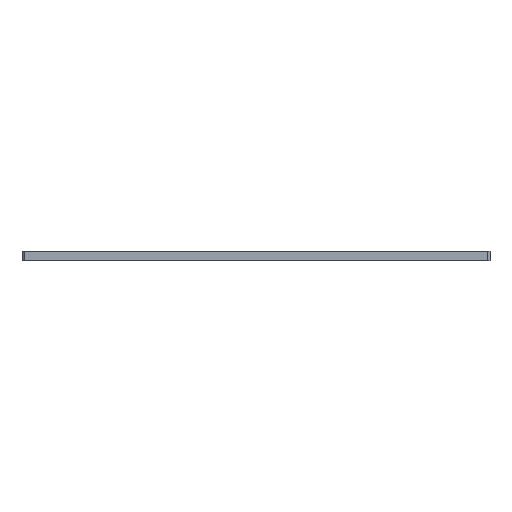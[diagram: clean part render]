
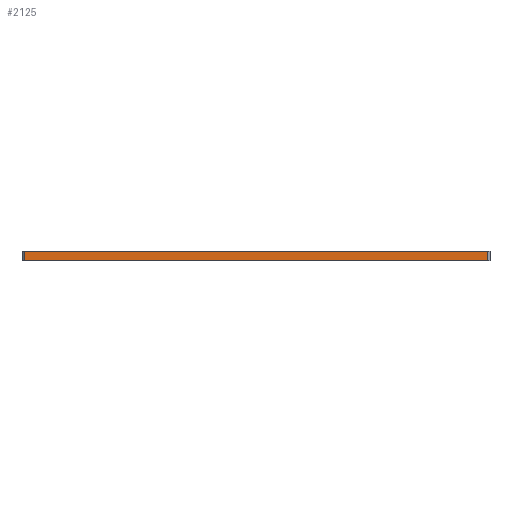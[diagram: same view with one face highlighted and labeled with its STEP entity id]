
A CAD part, front view. The second image highlights one B-rep face of the part: STEP entity #2125.
In plain terms, the highlighted planar face has unit normal (0, -1, 0).
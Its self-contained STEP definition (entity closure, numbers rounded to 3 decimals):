
#98 = EDGE_CURVE ( 'NONE', #320, #1692, #1061, .T. ) ;
#205 = VERTEX_POINT ( 'NONE', #1120 ) ;
#292 = CARTESIAN_POINT ( 'NONE',  ( 221.5, -230., 0. ) ) ;
#320 = VERTEX_POINT ( 'NONE', #373 ) ;
#373 = CARTESIAN_POINT ( 'NONE',  ( -219.5, -230., 9. ) ) ;
#408 = FACE_OUTER_BOUND ( 'NONE', #2128, .T. ) ;
#463 = ORIENTED_EDGE ( 'NONE', *, *, #98, .F. ) ;
#553 = EDGE_CURVE ( 'NONE', #320, #2106, #804, .T. ) ;
#631 = CARTESIAN_POINT ( 'NONE',  ( -219.5, -230., 9. ) ) ;
#639 = DIRECTION ( 'NONE',  ( 0., 0., -1. ) ) ;
#642 = EDGE_CURVE ( 'NONE', #205, #1692, #894, .T. ) ;
#660 = DIRECTION ( 'NONE',  ( 1., 0., 0. ) ) ;
#667 = CARTESIAN_POINT ( 'NONE',  ( 219.5, -230., 9. ) ) ;
#804 = LINE ( 'NONE', #631, #1426 ) ;
#894 = LINE ( 'NONE', #667, #1282 ) ;
#939 = PLANE ( 'NONE',  #1515 ) ;
#1061 = LINE ( 'NONE', #1404, #1674 ) ;
#1063 = VECTOR ( 'NONE', #660, 1000. ) ;
#1120 = CARTESIAN_POINT ( 'NONE',  ( 219.5, -230., 0. ) ) ;
#1151 = EDGE_CURVE ( 'NONE', #2106, #205, #2098, .T. ) ;
#1229 = ORIENTED_EDGE ( 'NONE', *, *, #642, .T. ) ;
#1245 = DIRECTION ( 'NONE',  ( 0., 0., 1. ) ) ;
#1282 = VECTOR ( 'NONE', #1722, 1000. ) ;
#1404 = CARTESIAN_POINT ( 'NONE',  ( 221.5, -230., 9. ) ) ;
#1412 = CARTESIAN_POINT ( 'NONE',  ( 221.5, -230., 9. ) ) ;
#1426 = VECTOR ( 'NONE', #639, 1000. ) ;
#1469 = ORIENTED_EDGE ( 'NONE', *, *, #553, .T. ) ;
#1515 = AXIS2_PLACEMENT_3D ( 'NONE', #1412, #1920, #1245 ) ;
#1547 = ORIENTED_EDGE ( 'NONE', *, *, #1151, .T. ) ;
#1568 = DIRECTION ( 'NONE',  ( 1., 0., 0. ) ) ;
#1674 = VECTOR ( 'NONE', #1568, 1000. ) ;
#1692 = VERTEX_POINT ( 'NONE', #1882 ) ;
#1722 = DIRECTION ( 'NONE',  ( 0., 0., 1. ) ) ;
#1882 = CARTESIAN_POINT ( 'NONE',  ( 219.5, -230., 9. ) ) ;
#1920 = DIRECTION ( 'NONE',  ( 0., 1., 0. ) ) ;
#2081 = CARTESIAN_POINT ( 'NONE',  ( -219.5, -230., 0. ) ) ;
#2098 = LINE ( 'NONE', #292, #1063 ) ;
#2106 = VERTEX_POINT ( 'NONE', #2081 ) ;
#2125 = ADVANCED_FACE ( 'NONE', ( #408 ), #939, .F. ) ;
#2128 = EDGE_LOOP ( 'NONE', ( #463, #1469, #1547, #1229 ) ) ;
